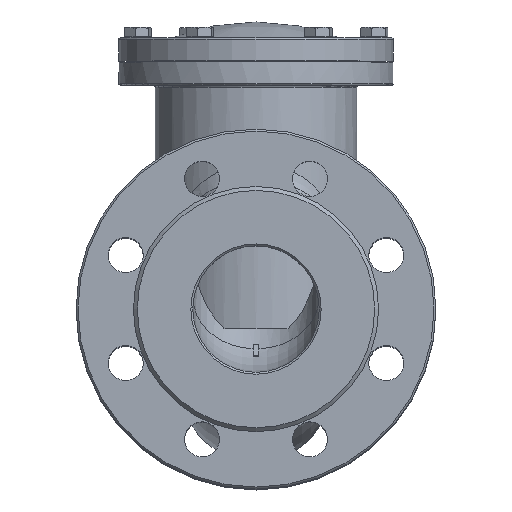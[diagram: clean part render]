
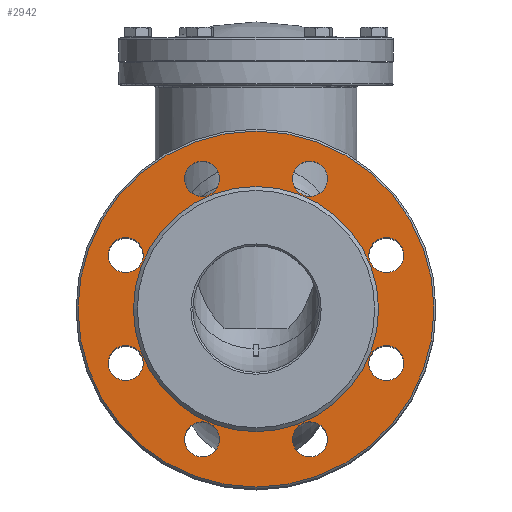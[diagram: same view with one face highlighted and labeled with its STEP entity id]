
A CAD part, top view. The second image highlights one B-rep face of the part: STEP entity #2942.
In plain terms, the highlighted planar face has unit normal (0, 0, 1).
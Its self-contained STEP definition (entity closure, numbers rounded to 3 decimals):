
#2942=ADVANCED_FACE('',(#8147,#8149,#8151,#8153,#8155,#8157,#8159,#8161,#8163,#8165),
#8167,.T.);
#8147=FACE_BOUND('',#8148,.T.);
#8148=EDGE_LOOP('',(#9749));
#8149=FACE_BOUND('',#8150,.T.);
#8150=EDGE_LOOP('',(#9750));
#8151=FACE_BOUND('',#8152,.T.);
#8152=EDGE_LOOP('',(#9751));
#8153=FACE_BOUND('',#8154,.T.);
#8154=EDGE_LOOP('',(#9752));
#8155=FACE_BOUND('',#8156,.T.);
#8156=EDGE_LOOP('',(#9753));
#8157=FACE_BOUND('',#8158,.T.);
#8158=EDGE_LOOP('',(#9754));
#8159=FACE_BOUND('',#8160,.T.);
#8160=EDGE_LOOP('',(#9755));
#8161=FACE_BOUND('',#8162,.T.);
#8162=EDGE_LOOP('',(#9756));
#8163=FACE_BOUND('',#8164,.T.);
#8164=EDGE_LOOP('',(#9757));
#8165=FACE_BOUND('',#8166,.T.);
#8166=EDGE_LOOP('',(#9758));
#8167=PLANE('',#8168);
#8168=AXIS2_PLACEMENT_3D('',#8169,#8170,#8171);
#8169=CARTESIAN_POINT('',(0.,0.,140.755));
#8170=DIRECTION('',(0.,0.,1.));
#8171=DIRECTION('',(1.,0.,0.));
#9749=ORIENTED_EDGE('',*,*,#10553,.F.);
#9750=ORIENTED_EDGE('',*,*,#10554,.F.);
#9751=ORIENTED_EDGE('',*,*,#10542,.T.);
#9752=ORIENTED_EDGE('',*,*,#10543,.T.);
#9753=ORIENTED_EDGE('',*,*,#10544,.T.);
#9754=ORIENTED_EDGE('',*,*,#10545,.T.);
#9755=ORIENTED_EDGE('',*,*,#10546,.T.);
#9756=ORIENTED_EDGE('',*,*,#10547,.T.);
#9757=ORIENTED_EDGE('',*,*,#10548,.T.);
#9758=ORIENTED_EDGE('',*,*,#10549,.T.);
#10542=EDGE_CURVE('',#11748,#11748,#11749,.T.);
#10543=EDGE_CURVE('',#11750,#11750,#11751,.T.);
#10544=EDGE_CURVE('',#11752,#11752,#11753,.T.);
#10545=EDGE_CURVE('',#11754,#11754,#11755,.T.);
#10546=EDGE_CURVE('',#11756,#11756,#11757,.T.);
#10547=EDGE_CURVE('',#11758,#11758,#11759,.T.);
#10548=EDGE_CURVE('',#11760,#11760,#11761,.T.);
#10549=EDGE_CURVE('',#11762,#11762,#11763,.T.);
#10553=EDGE_CURVE('',#11770,#11770,#11771,.T.);
#10554=EDGE_CURVE('',#11772,#11772,#11773,.T.);
#11748=VERTEX_POINT('',#21496);
#11749=CIRCLE('',#21497,9.);
#11750=VERTEX_POINT('',#21501);
#11751=CIRCLE('',#21502,9.);
#11752=VERTEX_POINT('',#21506);
#11753=CIRCLE('',#21507,9.);
#11754=VERTEX_POINT('',#21511);
#11755=CIRCLE('',#21512,9.);
#11756=VERTEX_POINT('',#21516);
#11757=CIRCLE('',#21517,9.);
#11758=VERTEX_POINT('',#21521);
#11759=CIRCLE('',#21522,9.);
#11760=VERTEX_POINT('',#21526);
#11761=CIRCLE('',#21527,9.);
#11762=VERTEX_POINT('',#21531);
#11763=CIRCLE('',#21532,9.);
#11770=VERTEX_POINT('',#21551);
#11771=CIRCLE('',#21552,91.5);
#11772=VERTEX_POINT('',#21556);
#11773=CIRCLE('',#21557,63.);
#21496=CARTESIAN_POINT('',(75.981,-27.745,140.755));
#21497=AXIS2_PLACEMENT_3D('',#21498,#21499,#21500);
#21498=CARTESIAN_POINT('',(66.981,-27.745,140.755));
#21499=DIRECTION('',(0.,0.,-1.));
#21500=DIRECTION('',(1.,0.,0.));
#21501=CARTESIAN_POINT('',(75.981,27.745,140.755));
#21502=AXIS2_PLACEMENT_3D('',#21503,#21504,#21505);
#21503=CARTESIAN_POINT('',(66.981,27.745,140.755));
#21504=DIRECTION('',(0.,0.,-1.));
#21505=DIRECTION('',(1.,0.,0.));
#21506=CARTESIAN_POINT('',(36.745,66.981,140.755));
#21507=AXIS2_PLACEMENT_3D('',#21508,#21509,#21510);
#21508=CARTESIAN_POINT('',(27.745,66.981,140.755));
#21509=DIRECTION('',(0.,0.,-1.));
#21510=DIRECTION('',(1.,0.,0.));
#21511=CARTESIAN_POINT('',(-18.745,66.981,140.755));
#21512=AXIS2_PLACEMENT_3D('',#21513,#21514,#21515);
#21513=CARTESIAN_POINT('',(-27.745,66.981,140.755));
#21514=DIRECTION('',(0.,0.,-1.));
#21515=DIRECTION('',(1.,0.,0.));
#21516=CARTESIAN_POINT('',(-57.981,27.745,140.755));
#21517=AXIS2_PLACEMENT_3D('',#21518,#21519,#21520);
#21518=CARTESIAN_POINT('',(-66.981,27.745,140.755));
#21519=DIRECTION('',(0.,0.,-1.));
#21520=DIRECTION('',(1.,0.,0.));
#21521=CARTESIAN_POINT('',(-57.981,-27.745,140.755));
#21522=AXIS2_PLACEMENT_3D('',#21523,#21524,#21525);
#21523=CARTESIAN_POINT('',(-66.981,-27.745,140.755));
#21524=DIRECTION('',(0.,0.,-1.));
#21525=DIRECTION('',(1.,0.,0.));
#21526=CARTESIAN_POINT('',(-18.745,-66.981,140.755));
#21527=AXIS2_PLACEMENT_3D('',#21528,#21529,#21530);
#21528=CARTESIAN_POINT('',(-27.745,-66.981,140.755));
#21529=DIRECTION('',(0.,0.,-1.));
#21530=DIRECTION('',(1.,0.,0.));
#21531=CARTESIAN_POINT('',(36.745,-66.981,140.755));
#21532=AXIS2_PLACEMENT_3D('',#21533,#21534,#21535);
#21533=CARTESIAN_POINT('',(27.745,-66.981,140.755));
#21534=DIRECTION('',(0.,0.,-1.));
#21535=DIRECTION('',(1.,0.,0.));
#21551=CARTESIAN_POINT('',(91.5,0.,140.755));
#21552=AXIS2_PLACEMENT_3D('',#21553,#21554,#21555);
#21553=CARTESIAN_POINT('',(0.,0.,140.755));
#21554=DIRECTION('',(0.,0.,-1.));
#21555=DIRECTION('',(1.,0.,0.));
#21556=CARTESIAN_POINT('',(63.,0.,140.755));
#21557=AXIS2_PLACEMENT_3D('',#21558,#21559,#21560);
#21558=CARTESIAN_POINT('',(0.,0.,140.755));
#21559=DIRECTION('',(0.,0.,1.));
#21560=DIRECTION('',(1.,0.,0.));
